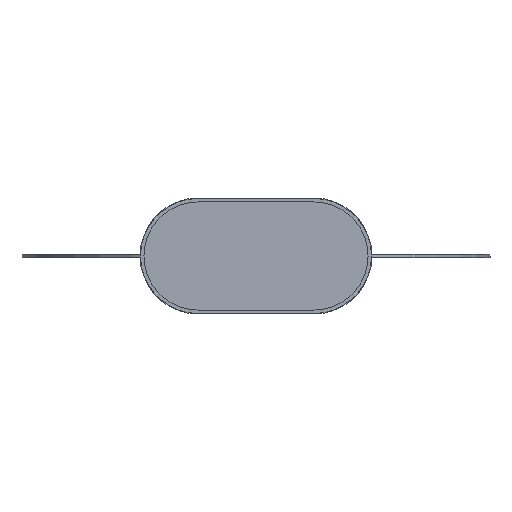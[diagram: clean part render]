
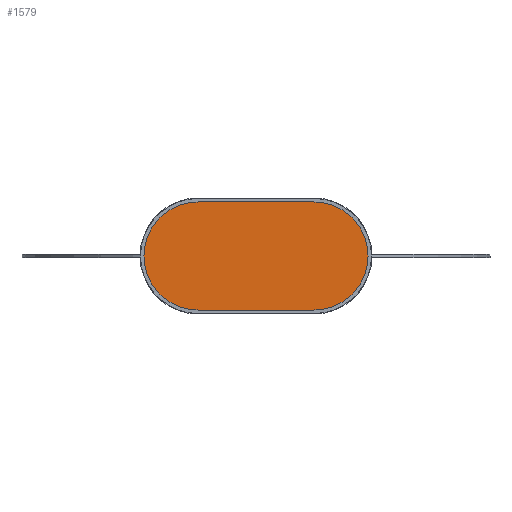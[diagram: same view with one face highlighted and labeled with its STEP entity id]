
A CAD part, front view. The second image highlights one B-rep face of the part: STEP entity #1579.
In plain terms, the highlighted planar face has unit normal (0, -1, 0).
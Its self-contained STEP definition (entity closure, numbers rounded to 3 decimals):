
#149 = VERTEX_POINT ( 'NONE', #5122 ) ;
#170 = VECTOR ( 'NONE', #2916, 1000. ) ;
#175 = LINE ( 'NONE', #681, #4174 ) ;
#222 = DIRECTION ( 'NONE',  ( 0., -1., 0. ) ) ;
#225 = DIRECTION ( 'NONE',  ( 0., -1., 0. ) ) ;
#247 = DIRECTION ( 'NONE',  ( 0., 0., -1. ) ) ;
#295 = EDGE_LOOP ( 'NONE', ( #5406, #4477, #5489, #2077 ) ) ;
#635 = CARTESIAN_POINT ( 'NONE',  ( 150., -12., 0. ) ) ;
#681 = CARTESIAN_POINT ( 'NONE',  ( -150., -12., -140. ) ) ;
#872 = EDGE_CURVE ( 'NONE', #149, #3260, #4238, .T. ) ;
#934 = AXIS2_PLACEMENT_3D ( 'NONE', #4146, #4991, #3337 ) ;
#1579 = ADVANCED_FACE ( 'NONE', ( #5350 ), #2849, .T. ) ;
#1584 = EDGE_CURVE ( 'NONE', #5383, #149, #175, .T. ) ;
#2030 = CARTESIAN_POINT ( 'NONE',  ( 150., -12., 140. ) ) ;
#2077 = ORIENTED_EDGE ( 'NONE', *, *, #4518, .T. ) ;
#2391 = AXIS2_PLACEMENT_3D ( 'NONE', #635, #222, #4181 ) ;
#2426 = DIRECTION ( 'NONE',  ( 1., 0., 0. ) ) ;
#2490 = CARTESIAN_POINT ( 'NONE',  ( 150., -12., 140. ) ) ;
#2830 = CARTESIAN_POINT ( 'NONE',  ( -150., -12., 0. ) ) ;
#2849 = PLANE ( 'NONE',  #934 ) ;
#2916 = DIRECTION ( 'NONE',  ( -1., 0., 0. ) ) ;
#3033 = CIRCLE ( 'NONE', #5579, 140. ) ;
#3147 = VERTEX_POINT ( 'NONE', #4600 ) ;
#3260 = VERTEX_POINT ( 'NONE', #2490 ) ;
#3337 = DIRECTION ( 'NONE',  ( 0., 0., -1. ) ) ;
#3951 = EDGE_CURVE ( 'NONE', #3147, #5383, #3033, .T. ) ;
#4146 = CARTESIAN_POINT ( 'NONE',  ( -150., -12., 0. ) ) ;
#4174 = VECTOR ( 'NONE', #2426, 1000. ) ;
#4181 = DIRECTION ( 'NONE',  ( 0., 0., -1. ) ) ;
#4238 = CIRCLE ( 'NONE', #2391, 140. ) ;
#4362 = LINE ( 'NONE', #2030, #170 ) ;
#4477 = ORIENTED_EDGE ( 'NONE', *, *, #1584, .T. ) ;
#4518 = EDGE_CURVE ( 'NONE', #3260, #3147, #4362, .T. ) ;
#4600 = CARTESIAN_POINT ( 'NONE',  ( -150., -12., 140. ) ) ;
#4991 = DIRECTION ( 'NONE',  ( 0., -1., 0. ) ) ;
#5122 = CARTESIAN_POINT ( 'NONE',  ( 150., -12., -140. ) ) ;
#5174 = CARTESIAN_POINT ( 'NONE',  ( -150., -12., -140. ) ) ;
#5350 = FACE_OUTER_BOUND ( 'NONE', #295, .T. ) ;
#5383 = VERTEX_POINT ( 'NONE', #5174 ) ;
#5406 = ORIENTED_EDGE ( 'NONE', *, *, #3951, .T. ) ;
#5489 = ORIENTED_EDGE ( 'NONE', *, *, #872, .T. ) ;
#5579 = AXIS2_PLACEMENT_3D ( 'NONE', #2830, #225, #247 ) ;
